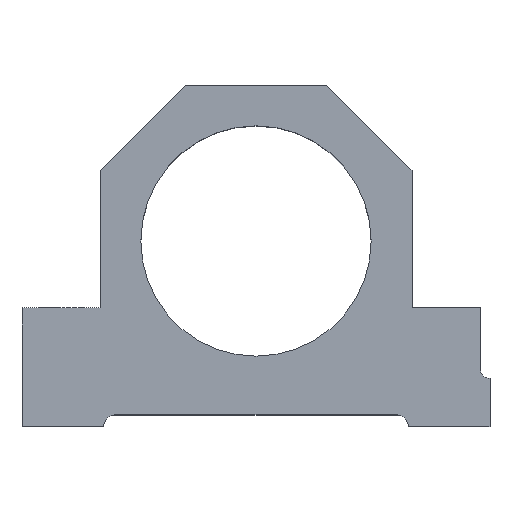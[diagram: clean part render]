
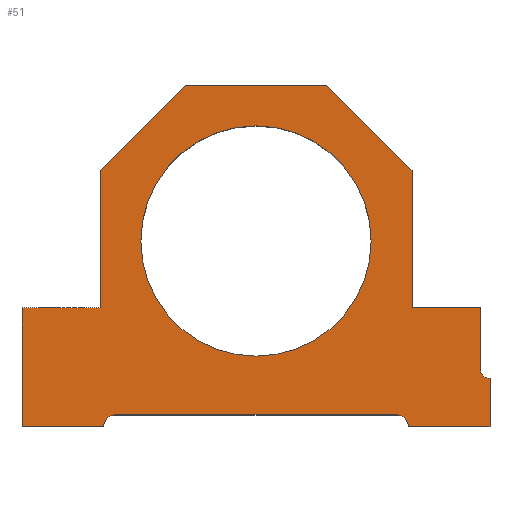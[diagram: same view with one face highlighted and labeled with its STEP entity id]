
A CAD part, top view. The second image highlights one B-rep face of the part: STEP entity #51.
In plain terms, the highlighted planar face has unit normal (0, 0, 1).
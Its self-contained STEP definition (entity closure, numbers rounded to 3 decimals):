
#2 = VERTEX_POINT ( 'NONE', #149 ) ;
#7 = EDGE_CURVE ( 'NONE', #293, #53, #185, .T. ) ;
#14 = ORIENTED_EDGE ( 'NONE', *, *, #98, .T. ) ;
#17 = ORIENTED_EDGE ( 'NONE', *, *, #7, .T. ) ;
#22 = VERTEX_POINT ( 'NONE', #307 ) ;
#31 = VERTEX_POINT ( 'NONE', #350 ) ;
#34 = ORIENTED_EDGE ( 'NONE', *, *, #126, .T. ) ;
#39 = EDGE_CURVE ( 'NONE', #139, #364, #382, .T. ) ;
#51 = ADVANCED_FACE ( 'NONE', ( #522, #523 ), #524, .T. ) ;
#53 = VERTEX_POINT ( 'NONE', #553 ) ;
#58 = ORIENTED_EDGE ( 'NONE', *, *, #39, .F. ) ;
#59 = EDGE_CURVE ( 'NONE', #181, #99, #588, .T. ) ;
#61 = EDGE_CURVE ( 'NONE', #2, #125, #600, .T. ) ;
#62 = ORIENTED_EDGE ( 'NONE', *, *, #130, .T. ) ;
#63 = VERTEX_POINT ( 'NONE', #610 ) ;
#69 = EDGE_CURVE ( 'NONE', #256, #860, #616, .T. ) ;
#75 = EDGE_LOOP ( 'NONE', ( #58, #568 ) ) ;
#86 = ORIENTED_EDGE ( 'NONE', *, *, #549, .T. ) ;
#98 = EDGE_CURVE ( 'NONE', #22, #256, #421, .T. ) ;
#99 = VERTEX_POINT ( 'NONE', #429 ) ;
#113 = EDGE_CURVE ( 'NONE', #814, #2, #191, .T. ) ;
#122 = ORIENTED_EDGE ( 'NONE', *, *, #823, .T. ) ;
#125 = VERTEX_POINT ( 'NONE', #243 ) ;
#126 = EDGE_CURVE ( 'NONE', #694, #181, #244, .T. ) ;
#130 = EDGE_CURVE ( 'NONE', #779, #293, #260, .T. ) ;
#131 = ORIENTED_EDGE ( 'NONE', *, *, #113, .T. ) ;
#139 = VERTEX_POINT ( 'NONE', #319 ) ;
#144 = EDGE_CURVE ( 'NONE', #63, #694, #331, .T. ) ;
#149 = CARTESIAN_POINT ( 'NONE',  ( 42., 32., 19. ) ) ;
#181 = VERTEX_POINT ( 'NONE', #351 ) ;
#185 = CIRCLE ( 'NONE', #186, 2.6 ) ;
#186 = AXIS2_PLACEMENT_3D ( 'NONE', #187, #188, #189 ) ;
#187 = CARTESIAN_POINT ( 'NONE',  ( 63., 15.6, 19. ) ) ;
#188 = DIRECTION ( 'NONE',  ( 0., 0., -1. ) ) ;
#189 = DIRECTION ( 'NONE',  ( -1., 0., 0. ) ) ;
#190 = CARTESIAN_POINT ( 'NONE',  ( 60.4, 32., 19. ) ) ;
#191 = LINE ( 'NONE', #192, #193 ) ;
#192 = CARTESIAN_POINT ( 'NONE',  ( 60.4, 32., 19. ) ) ;
#193 = VECTOR ( 'NONE', #194, 1000. ) ;
#194 = DIRECTION ( 'NONE',  ( -1., 0., 0. ) ) ;
#201 = EDGE_CURVE ( 'NONE', #837, #22, #353, .T. ) ;
#219 = ORIENTED_EDGE ( 'NONE', *, *, #144, .T. ) ;
#243 = CARTESIAN_POINT ( 'NONE',  ( 42., 69., 19. ) ) ;
#244 = CIRCLE ( 'NONE', #245, 3.2 ) ;
#245 = AXIS2_PLACEMENT_3D ( 'NONE', #246, #247, #248 ) ;
#246 = CARTESIAN_POINT ( 'NONE',  ( -37.8, 0., 19. ) ) ;
#247 = DIRECTION ( 'NONE',  ( 0., 0., -1. ) ) ;
#248 = DIRECTION ( 'NONE',  ( 1., 0., 0. ) ) ;
#256 = VERTEX_POINT ( 'NONE', #407 ) ;
#260 = LINE ( 'NONE', #261, #262 ) ;
#261 = CARTESIAN_POINT ( 'NONE',  ( 63., 0., 19. ) ) ;
#262 = VECTOR ( 'NONE', #263, 1000. ) ;
#263 = DIRECTION ( 'NONE',  ( 0., 1., 0. ) ) ;
#268 = LINE ( 'NONE', #269, #270 ) ;
#269 = CARTESIAN_POINT ( 'NONE',  ( 60.4, 15.6, 19. ) ) ;
#270 = VECTOR ( 'NONE', #271, 1000. ) ;
#271 = DIRECTION ( 'NONE',  ( 0., 1., 0. ) ) ;
#292 = ORIENTED_EDGE ( 'NONE', *, *, #201, .T. ) ;
#293 = VERTEX_POINT ( 'NONE', #448 ) ;
#307 = CARTESIAN_POINT ( 'NONE',  ( -19., 92., 19. ) ) ;
#319 = CARTESIAN_POINT ( 'NONE',  ( -31., 50., 19. ) ) ;
#331 = LINE ( 'NONE', #332, #333 ) ;
#332 = CARTESIAN_POINT ( 'NONE',  ( -41., 0., 19. ) ) ;
#333 = VECTOR ( 'NONE', #334, 1000. ) ;
#334 = DIRECTION ( 'NONE',  ( 1., 0., 0. ) ) ;
#350 = CARTESIAN_POINT ( 'NONE',  ( 41., 0., 19. ) ) ;
#351 = CARTESIAN_POINT ( 'NONE',  ( -37.8, 3.2, 19. ) ) ;
#352 = CARTESIAN_POINT ( 'NONE',  ( 19., 92., 19. ) ) ;
#353 = LINE ( 'NONE', #354, #355 ) ;
#354 = CARTESIAN_POINT ( 'NONE',  ( -19., 92., 19. ) ) ;
#355 = VECTOR ( 'NONE', #356, 1000. ) ;
#356 = DIRECTION ( 'NONE',  ( -1., 0., 0. ) ) ;
#364 = VERTEX_POINT ( 'NONE', #496 ) ;
#382 = CIRCLE ( 'NONE', #384, 31. ) ;
#384 = AXIS2_PLACEMENT_3D ( 'NONE', #385, #386, #387 ) ;
#385 = CARTESIAN_POINT ( 'NONE',  ( 0., 50., 19. ) ) ;
#386 = DIRECTION ( 'NONE',  ( 0., 0., 1. ) ) ;
#387 = DIRECTION ( 'NONE',  ( 1., 0., 0. ) ) ;
#407 = CARTESIAN_POINT ( 'NONE',  ( -42., 69., 19. ) ) ;
#408 = CARTESIAN_POINT ( 'NONE',  ( -63., 32., 19. ) ) ;
#418 = EDGE_CURVE ( 'NONE', #841, #63, #512, .T. ) ;
#421 = LINE ( 'NONE', #422, #423 ) ;
#422 = CARTESIAN_POINT ( 'NONE',  ( -42., 69., 19. ) ) ;
#423 = VECTOR ( 'NONE', #424, 1000. ) ;
#424 = DIRECTION ( 'NONE',  ( -0.707, -0.707, 0. ) ) ;
#429 = CARTESIAN_POINT ( 'NONE',  ( 37.8, 3.2, 19. ) ) ;
#436 = EDGE_CURVE ( 'NONE', #99, #31, #517, .T. ) ;
#444 = LINE ( 'NONE', #445, #446 ) ;
#445 = CARTESIAN_POINT ( 'NONE',  ( 42., 69., 19. ) ) ;
#446 = VECTOR ( 'NONE', #447, 1000. ) ;
#447 = DIRECTION ( 'NONE',  ( -0.707, 0.707, 0. ) ) ;
#448 = CARTESIAN_POINT ( 'NONE',  ( 63., 13., 19. ) ) ;
#464 = CIRCLE ( 'NONE', #465, 31. ) ;
#465 = AXIS2_PLACEMENT_3D ( 'NONE', #466, #467, #468 ) ;
#466 = CARTESIAN_POINT ( 'NONE',  ( 0., 50., 19. ) ) ;
#467 = DIRECTION ( 'NONE',  ( 0., 0., 1. ) ) ;
#468 = DIRECTION ( 'NONE',  ( 1., 0., 0. ) ) ;
#496 = CARTESIAN_POINT ( 'NONE',  ( 31., 50., 19. ) ) ;
#508 = EDGE_CURVE ( 'NONE', #860, #841, #576, .T. ) ;
#509 = ORIENTED_EDGE ( 'NONE', *, *, #418, .T. ) ;
#512 = LINE ( 'NONE', #513, #514 ) ;
#513 = CARTESIAN_POINT ( 'NONE',  ( -63., 0., 19. ) ) ;
#514 = VECTOR ( 'NONE', #515, 1000. ) ;
#515 = DIRECTION ( 'NONE',  ( 0., -1., 0. ) ) ;
#517 = CIRCLE ( 'NONE', #518, 3.2 ) ;
#518 = AXIS2_PLACEMENT_3D ( 'NONE', #519, #520, #521 ) ;
#519 = CARTESIAN_POINT ( 'NONE',  ( 37.8, 0., 19. ) ) ;
#520 = DIRECTION ( 'NONE',  ( 0., 0., -1. ) ) ;
#521 = DIRECTION ( 'NONE',  ( -1., 0., 0. ) ) ;
#522 = FACE_OUTER_BOUND ( 'NONE', #793, .T. ) ;
#523 = FACE_BOUND ( 'NONE', #75, .T. ) ;
#524 = PLANE ( 'NONE',  #525 ) ;
#525 = AXIS2_PLACEMENT_3D ( 'NONE', #526, #532, #533 ) ;
#526 = CARTESIAN_POINT ( 'NONE',  ( -63., 15.6, 19. ) ) ;
#528 = ORIENTED_EDGE ( 'NONE', *, *, #845, .T. ) ;
#529 = ORIENTED_EDGE ( 'NONE', *, *, #436, .T. ) ;
#532 = DIRECTION ( 'NONE',  ( 0., 0., 1. ) ) ;
#533 = DIRECTION ( 'NONE',  ( 1., 0., 0. ) ) ;
#549 = EDGE_CURVE ( 'NONE', #31, #779, #606, .T. ) ;
#553 = CARTESIAN_POINT ( 'NONE',  ( 60.4, 15.6, 19. ) ) ;
#568 = ORIENTED_EDGE ( 'NONE', *, *, #849, .F. ) ;
#575 = CARTESIAN_POINT ( 'NONE',  ( -42., 32., 19. ) ) ;
#576 = LINE ( 'NONE', #577, #578 ) ;
#577 = CARTESIAN_POINT ( 'NONE',  ( -60.4, 32., 19. ) ) ;
#578 = VECTOR ( 'NONE', #579, 1000. ) ;
#579 = DIRECTION ( 'NONE',  ( -1., 0., 0. ) ) ;
#588 = LINE ( 'NONE', #589, #590 ) ;
#589 = CARTESIAN_POINT ( 'NONE',  ( -37.8, 3.2, 19. ) ) ;
#590 = VECTOR ( 'NONE', #591, 1000. ) ;
#591 = DIRECTION ( 'NONE',  ( 1., 0., 0. ) ) ;
#600 = LINE ( 'NONE', #601, #604 ) ;
#601 = CARTESIAN_POINT ( 'NONE',  ( 42., 32., 19. ) ) ;
#602 = ORIENTED_EDGE ( 'NONE', *, *, #508, .T. ) ;
#604 = VECTOR ( 'NONE', #605, 1000. ) ;
#605 = DIRECTION ( 'NONE',  ( 0., 1., 0. ) ) ;
#606 = LINE ( 'NONE', #607, #608 ) ;
#607 = CARTESIAN_POINT ( 'NONE',  ( 41., 0., 19. ) ) ;
#608 = VECTOR ( 'NONE', #609, 1000. ) ;
#609 = DIRECTION ( 'NONE',  ( 1., 0., 0. ) ) ;
#610 = CARTESIAN_POINT ( 'NONE',  ( -63., 0., 19. ) ) ;
#616 = LINE ( 'NONE', #617, #618 ) ;
#617 = CARTESIAN_POINT ( 'NONE',  ( -42., 32., 19. ) ) ;
#618 = VECTOR ( 'NONE', #619, 1000. ) ;
#619 = DIRECTION ( 'NONE',  ( 0., -1., 0. ) ) ;
#659 = CARTESIAN_POINT ( 'NONE',  ( -41., 0., 19. ) ) ;
#672 = CARTESIAN_POINT ( 'NONE',  ( 63., 0., 19. ) ) ;
#694 = VERTEX_POINT ( 'NONE', #659 ) ;
#761 = ORIENTED_EDGE ( 'NONE', *, *, #61, .T. ) ;
#779 = VERTEX_POINT ( 'NONE', #672 ) ;
#793 = EDGE_LOOP ( 'NONE', ( #509, #219, #34, #820, #529, #86, #62, #17, #122, #131, #761, #528, #292, #14, #799, #602 ) ) ;
#799 = ORIENTED_EDGE ( 'NONE', *, *, #69, .T. ) ;
#814 = VERTEX_POINT ( 'NONE', #190 ) ;
#820 = ORIENTED_EDGE ( 'NONE', *, *, #59, .T. ) ;
#823 = EDGE_CURVE ( 'NONE', #53, #814, #268, .T. ) ;
#837 = VERTEX_POINT ( 'NONE', #352 ) ;
#841 = VERTEX_POINT ( 'NONE', #408 ) ;
#845 = EDGE_CURVE ( 'NONE', #125, #837, #444, .T. ) ;
#849 = EDGE_CURVE ( 'NONE', #364, #139, #464, .T. ) ;
#860 = VERTEX_POINT ( 'NONE', #575 ) ;
